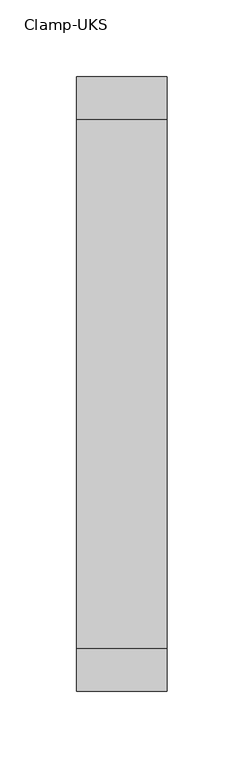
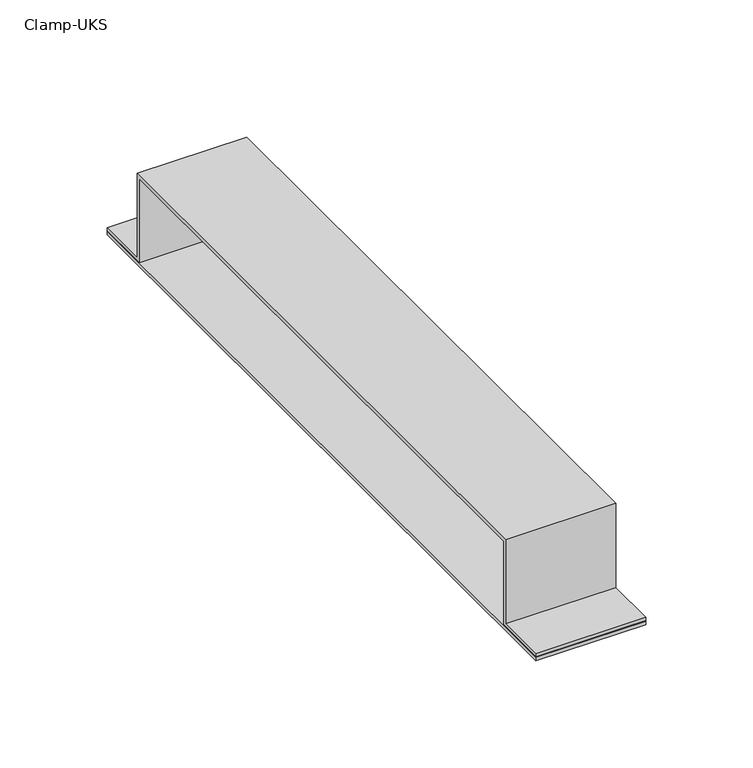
"""IFC4 building model written with IfcOpenShell, lengths in millimetres: cable carrier fitting geometry, Electrical-Installations_Hager_Clamp-UKS : Clamp-UKS."""

from ifc_helpers import new_model, si_unit, frame, origin, place, context, project, spatial, polyline, outline, extrude, source, transform, mapped, element, save


def clamp_uks_b9cb9329(model_context):
    return source(origin(), model_context, "Body", "SweptSolid", [
        extrude(outline(polyline([(59.0, 200.0), (59.0, -200.0), (0.0, -200.0), (0.0, 200.0), (59.0, 200.0)])), frame((0.0, 0.0, -26.0), z_axis=(0.0, 0.0, 1.0), x_axis=(1.0, 0.0, 0.0)), (0.0, 0.0, 1.0), 2.0),
        extrude(outline(polyline([(170.0, 24.0), (-170.0, 24.0), (-170.0, -24.0), (-200.0, -24.0), (-200.0, -21.96), (-172.0, -21.96), (-172.0, 26.0), (172.0, 26.0), (172.0, -21.96), (200.0, -21.96), (200.0, -24.0), (170.0, -24.0), (170.0, 24.0)])), frame((0.0, 0.0, 0.0), z_axis=(1.0, 0.0, 0.0), x_axis=(0.0, 1.0, 0.0)), (0.0, 0.0, 1.0), 59.0),
    ])


if __name__ == "__main__":
    model = new_model("IFC4")
    model_context = context("Model", 3, world=origin())
    ifc_project = project(units=[si_unit("LENGTHUNIT", "METRE", prefix="MILLI")], contexts=[model_context])
    site = spatial("IfcSite", under=ifc_project)
    building = spatial("IfcBuilding", under=site)
    placement = place(None, origin())
    clamp_uks_shape = clamp_uks_b9cb9329(model_context)
    element("IfcCableCarrierFitting", 1, ObjectType="Electrical-Installations_Hager_Clamp-UKS : Clamp-UKS", at=placement, inside=building, context=model_context, shape_type="MappedRepresentation", body=[
        mapped(clamp_uks_shape, transform((0.0, 0.0, 0.0), x_axis=(1.0, 0.0, 0.0), y_axis=(0.0, 1.0, 0.0), z_axis=(0.0, 0.0, 1.0))),
    ])
    save(model, "model.ifc")
